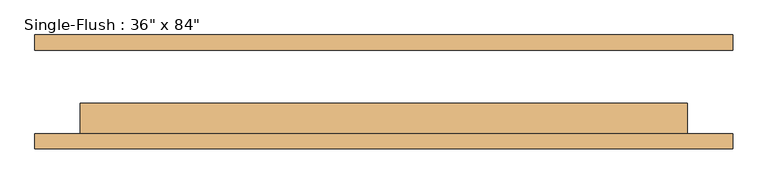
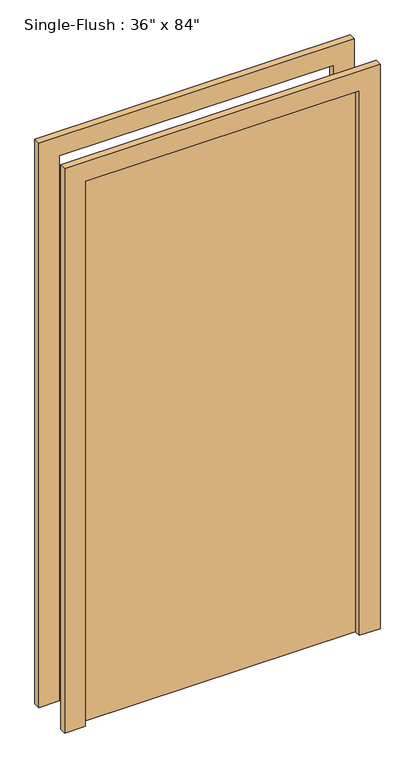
"""IFC4 building model written with IfcOpenShell, lengths in millimetres: door geometry."""

from ifc_helpers import new_model, si_unit, frame, origin, origin_with_axes, place, context, project, spatial, polyline, outline, extrude, source, transform, mapped, element, save


def door_dc1560be(model_context):
    return source(origin(), model_context, "Body", "SweptSolid", [
        extrude(outline(polyline([(2209.8, -584.2), (0.0, -584.2), (0.0, -508.0), (2133.6, -508.0), (2133.6, 508.0), (0.0, 508.0), (0.0, 584.2), (2209.8, 584.2), (2209.8, -584.2)])), frame((0.0, -95.25, 0.0), z_axis=(0.0, 1.0, 0.0), x_axis=(0.0, 0.0, 1.0)), (0.0, 0.0, 1.0), 25.4),
        extrude(outline(polyline([(2209.8, 584.2), (2209.8, -584.2), (0.0, -584.2), (0.0, -508.0), (2133.6, -508.0), (2133.6, 508.0), (0.0, 508.0), (0.0, 584.2), (2209.8, 584.2)])), frame((0.0, 69.85, 0.0), z_axis=(0.0, 1.0, 0.0), x_axis=(0.0, 0.0, 1.0)), (0.0, 0.0, 1.0), 25.4),
        extrude(outline(polyline([(508.0, -19.05), (508.0, -69.85), (-508.0, -69.85), (-508.0, -19.05), (508.0, -19.05)])), origin_with_axes(), (0.0, 0.0, 1.0), 2133.6),
    ])


if __name__ == "__main__":
    model = new_model("IFC4")
    model_context = context("Model", 3, world=origin())
    ifc_project = project(units=[si_unit("LENGTHUNIT", "METRE", prefix="MILLI")], contexts=[model_context])
    site = spatial("IfcSite", under=ifc_project)
    building = spatial("IfcBuilding", under=site)
    placement = place(None, origin())
    door_shape = door_dc1560be(model_context)
    element("IfcDoor", 1, ObjectType="Single-Flush : 36\" x 84\"", at=placement, inside=building, context=model_context, shape_type="MappedRepresentation", body=[
        mapped(door_shape, transform((0.0, 0.0, 0.0), x_axis=(1.0, 0.0, 0.0), y_axis=(0.0, 1.0, 0.0), z_axis=(0.0, 0.0, 1.0))),
    ])
    save(model, "model.ifc")
